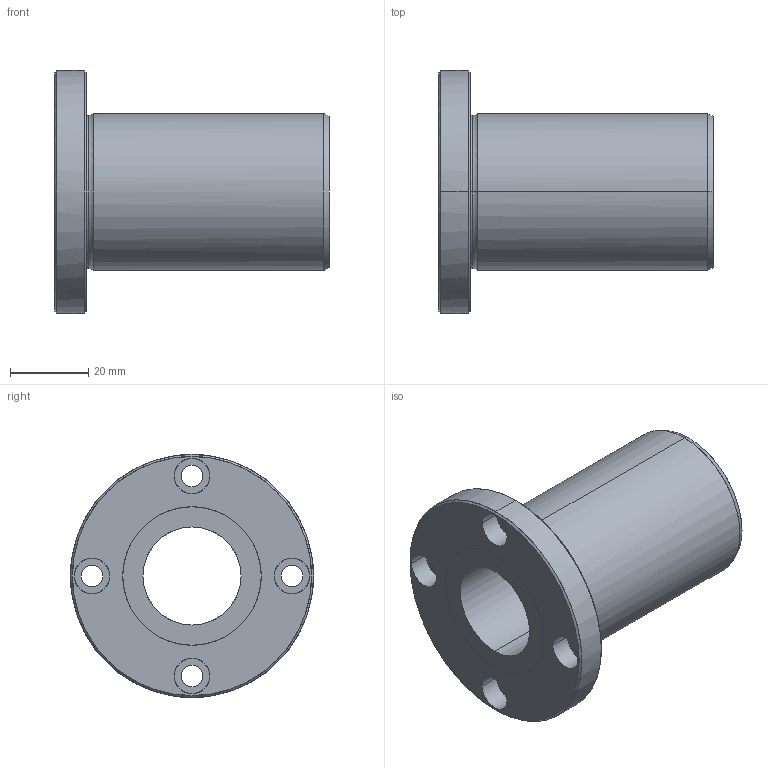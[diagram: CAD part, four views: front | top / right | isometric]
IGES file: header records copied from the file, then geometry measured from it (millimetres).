
Global section: file name: No Iges File Name specified; native system: AutoDesk Inventor R10; preprocessor: AutoDesk Inventor Iges Exporter R10; author: No Author specified; organization: No Organization specified; date: 20101216.173038; units: millimetre
Bounding box: 70 x 62 x 62 mm (x, y, z)
Surface area: 20384.9 mm2 (no closed solid volume)
Topology: 0 solids, 0 shells, 45 faces, 320 edges, 320 vertices
Faces by surface type: bspline 45
